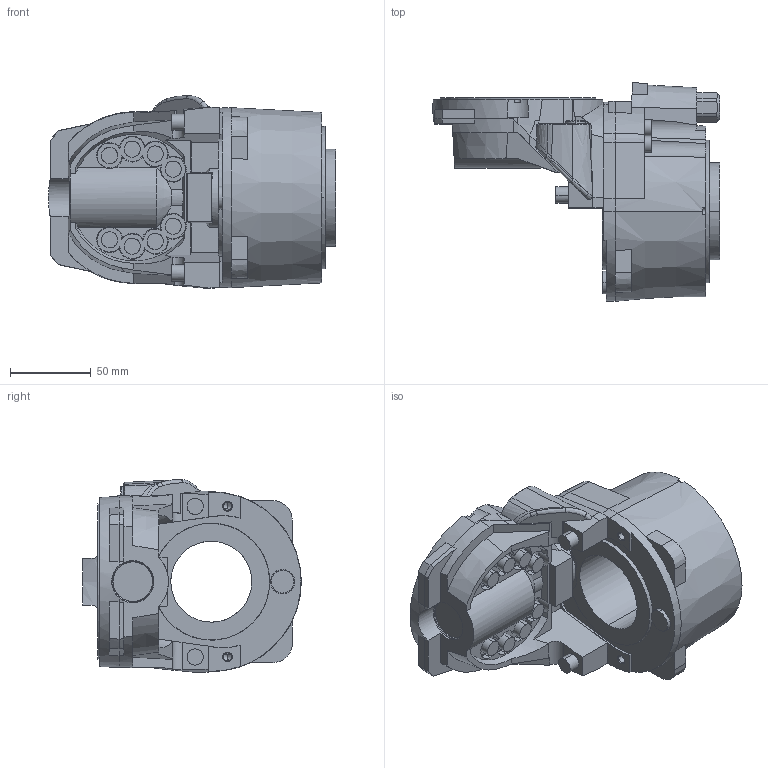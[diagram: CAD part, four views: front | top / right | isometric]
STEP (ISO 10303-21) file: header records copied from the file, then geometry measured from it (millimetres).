
FILE_DESCRIPTION (( 'STEP AP214' ), '1' );
FILE_NAME ('IRB1600ID_6-155_IRC5_rev0_LINK5.STEP', '2016-03-24T06:28:03', ( 'ABB' ), ( 'ABB' ), 'SwSTEP 2.0', 'SolidWorks 2014', '' );
FILE_SCHEMA (( 'AUTOMOTIVE_DESIGN' ));
Length unit declared in the file: millimetre
Products named in the file (1): IRB1600ID_6-155_IRC5_rev0_LINK5
Bounding box: 177.26 x 135.01 x 119.14 mm (x, y, z)
Volume: 858662.5 mm3; surface area: 110048.1 mm2
Topology: 3 solids, 5 shells, 400 faces, 1117 edges, 745 vertices
Faces by surface type: plane 153, cylinder 116, bspline 66, cone 63, torus 2
Entity records: 23275 total; most frequent: CARTESIAN_POINT 14091, ORIENTED_EDGE 2218, DIRECTION 1328, EDGE_CURVE 1109, VERTEX_POINT 745, B_SPLINE_CURVE_WITH_KNOTS 600, AXIS2_PLACEMENT_3D 485, EDGE_LOOP 428
